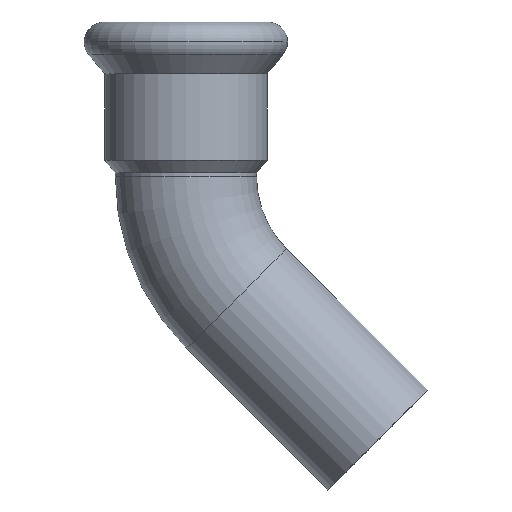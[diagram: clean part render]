
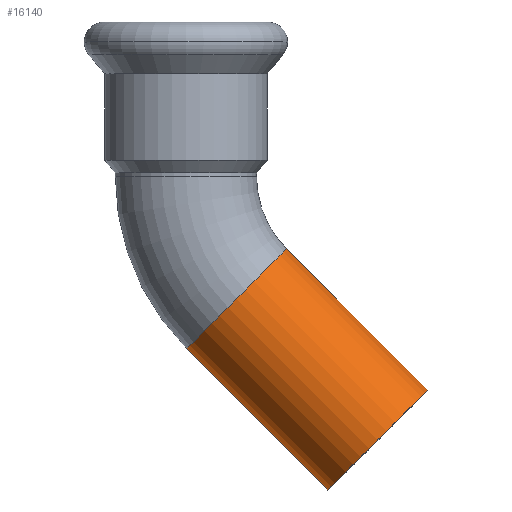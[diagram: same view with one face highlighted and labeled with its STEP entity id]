
A CAD part, top view. The second image highlights one B-rep face of the part: STEP entity #16140.
In plain terms, the highlighted cylindrical face has radius 11 mm (diameter 22 mm), a partial arc.
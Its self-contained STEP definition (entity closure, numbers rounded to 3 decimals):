
#14100=CARTESIAN_POINT('',(-319.161,14.048,
0.));
#14110=VERTEX_POINT('',#14100);
#14200=CARTESIAN_POINT('',(-303.605,29.605,
0.));
#14210=VERTEX_POINT('',#14200);
#14240=CARTESIAN_POINT('',(-311.383,21.826,0.));
#14250=DIRECTION('',(0.707,-0.707,0.));
#14260=DIRECTION('',(-0.707,-0.707,0.));
#14270=AXIS2_PLACEMENT_3D('',#14240,#14250,#14260);
#14280=CIRCLE('',#14270,11.);
#14290=EDGE_CURVE('',#14210,#14110,#14280,.T.);
#14780=CARTESIAN_POINT('',(-311.383,21.826,0.));
#14790=DIRECTION('',(-0.707,0.707,0.));
#14800=DIRECTION('',(-0.707,-0.707,0.));
#14810=AXIS2_PLACEMENT_3D('',#14780,#14790,#14800);
#14820=CYLINDRICAL_SURFACE('',#14810,11.);
#14830=CARTESIAN_POINT('',(-303.605,29.605,
0.));
#14840=DIRECTION('',(-0.707,0.707,0.));
#14850=VECTOR('',#14840,1.);
#14860=LINE('',#14830,#14850);
#14870=CARTESIAN_POINT('',(-281.602,7.602,
0.));
#14880=VERTEX_POINT('',#14870);
#14890=EDGE_CURVE('',#14880,#14210,#14860,.T.);
#14930=CARTESIAN_POINT('',(-319.161,14.048,0.));
#14940=DIRECTION('',(-0.707,0.707,0.));
#14950=VECTOR('',#14940,1.);
#14960=LINE('',#14930,#14950);
#14970=CARTESIAN_POINT('',(-297.159,-7.954,0.));
#14980=VERTEX_POINT('',#14970);
#14990=EDGE_CURVE('',#14980,#14110,#14960,.T.);
#15010=CARTESIAN_POINT('',(-289.38,-0.176,0.));
#15020=DIRECTION('',(-0.707,0.707,0.));
#15030=DIRECTION('',(-0.707,-0.707,0.));
#15040=AXIS2_PLACEMENT_3D('',#15010,#15020,#15030);
#15050=CIRCLE('',#15040,11.);
#15160=EDGE_CURVE('',#14980,#14880,#15050,.T.);
#16080=ORIENTED_EDGE('',*,*,#14890,.T.);
#16090=ORIENTED_EDGE('',*,*,#15160,.T.);
#16100=ORIENTED_EDGE('',*,*,#14990,.F.);
#16110=ORIENTED_EDGE('',*,*,#14290,.T.);
#16120=EDGE_LOOP('',(#16110,#16100,#16090,#16080));
#16130=FACE_OUTER_BOUND('',#16120,.T.);
#16140=ADVANCED_FACE('',(#16130),#14820,.T.);
